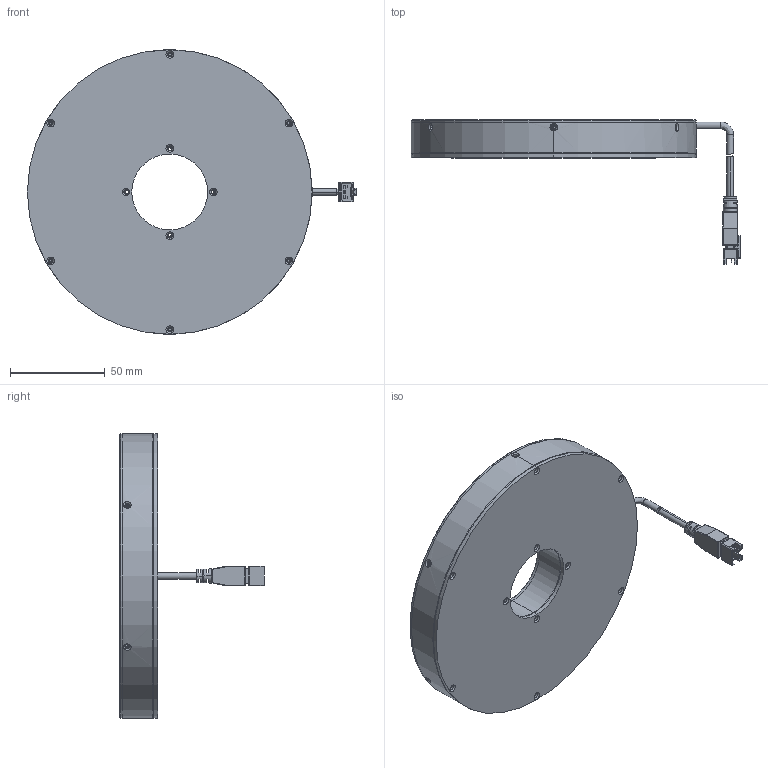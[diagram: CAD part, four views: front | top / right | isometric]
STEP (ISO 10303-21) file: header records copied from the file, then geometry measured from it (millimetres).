
FILE_DESCRIPTION (( 'STEP AP203' ), '1' );
FILE_NAME ('CRT-RL15090-¼òÒ×3DÍ¼.STEP', '2021-12-20T11:34:27', ( 'Admin' ), ( '' ), 'SwSTEP 2.0', 'SolidWorks 2018', '' );
FILE_SCHEMA (( 'CONFIG_CONTROL_DESIGN' ));
Length unit declared in the file: millimetre
Products named in the file (1): CRT-RL15090-潠眢3D芞
Bounding box: 173.45 x 76.13 x 150 mm (x, y, z)
Surface area: 70148.6 mm2 (no closed solid volume)
Topology: 0 solids, 6 shells, 298 faces, 907 edges, 590 vertices
Faces by surface type: cylinder 122, plane 109, cone 50, bspline 16, torus 1
Entity records: 11652 total; most frequent: CARTESIAN_POINT 3520, DIRECTION 1705, ORIENTED_EDGE 1572, EDGE_CURVE 899, AXIS2_PLACEMENT_3D 617, VERTEX_POINT 590, VECTOR 471, LINE 471
